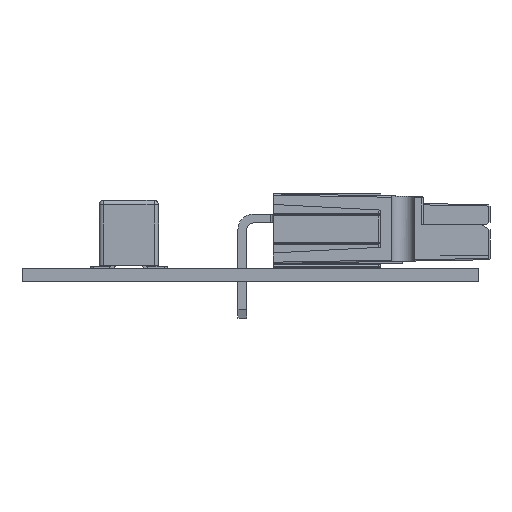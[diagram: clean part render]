
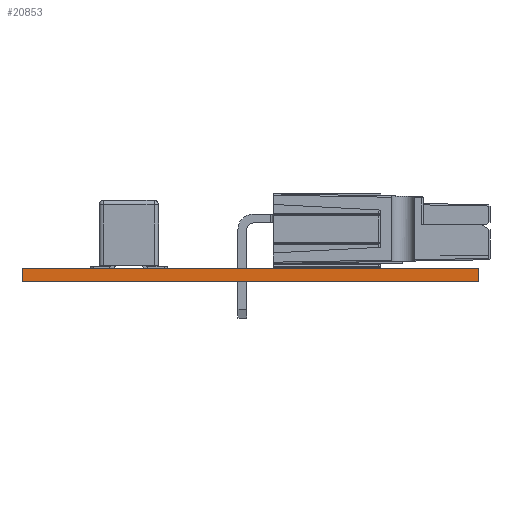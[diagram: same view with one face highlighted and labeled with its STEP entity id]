
A CAD part, front view. The second image highlights one B-rep face of the part: STEP entity #20853.
In plain terms, the highlighted planar face has unit normal (0, -1, 0).
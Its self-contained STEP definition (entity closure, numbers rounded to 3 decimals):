
#20853 = ADVANCED_FACE('',(#20854),#20888,.T.);
#20854 = FACE_BOUND('',#20855,.T.);
#20855 = EDGE_LOOP('',(#20856,#20866,#20874,#20882));
#20856 = ORIENTED_EDGE('',*,*,#20857,.T.);
#20857 = EDGE_CURVE('',#20858,#20860,#20862,.T.);
#20858 = VERTEX_POINT('',#20859);
#20859 = CARTESIAN_POINT('',(26.75,-75.,0.));
#20860 = VERTEX_POINT('',#20861);
#20861 = CARTESIAN_POINT('',(26.75,-75.,1.51));
#20862 = LINE('',#20863,#20864);
#20863 = CARTESIAN_POINT('',(26.75,-75.,0.));
#20864 = VECTOR('',#20865,1.);
#20865 = DIRECTION('',(0.,0.,1.));
#20866 = ORIENTED_EDGE('',*,*,#20867,.T.);
#20867 = EDGE_CURVE('',#20860,#20868,#20870,.T.);
#20868 = VERTEX_POINT('',#20869);
#20869 = CARTESIAN_POINT('',(-25.,-75.,1.51));
#20870 = LINE('',#20871,#20872);
#20871 = CARTESIAN_POINT('',(26.75,-75.,1.51));
#20872 = VECTOR('',#20873,1.);
#20873 = DIRECTION('',(-1.,0.,0.));
#20874 = ORIENTED_EDGE('',*,*,#20875,.F.);
#20875 = EDGE_CURVE('',#20876,#20868,#20878,.T.);
#20876 = VERTEX_POINT('',#20877);
#20877 = CARTESIAN_POINT('',(-25.,-75.,0.));
#20878 = LINE('',#20879,#20880);
#20879 = CARTESIAN_POINT('',(-25.,-75.,0.));
#20880 = VECTOR('',#20881,1.);
#20881 = DIRECTION('',(0.,0.,1.));
#20882 = ORIENTED_EDGE('',*,*,#20883,.F.);
#20883 = EDGE_CURVE('',#20858,#20876,#20884,.T.);
#20884 = LINE('',#20885,#20886);
#20885 = CARTESIAN_POINT('',(26.75,-75.,0.));
#20886 = VECTOR('',#20887,1.);
#20887 = DIRECTION('',(-1.,0.,0.));
#20888 = PLANE('',#20889);
#20889 = AXIS2_PLACEMENT_3D('',#20890,#20891,#20892);
#20890 = CARTESIAN_POINT('',(26.75,-75.,0.));
#20891 = DIRECTION('',(0.,-1.,0.));
#20892 = DIRECTION('',(-1.,0.,0.));
